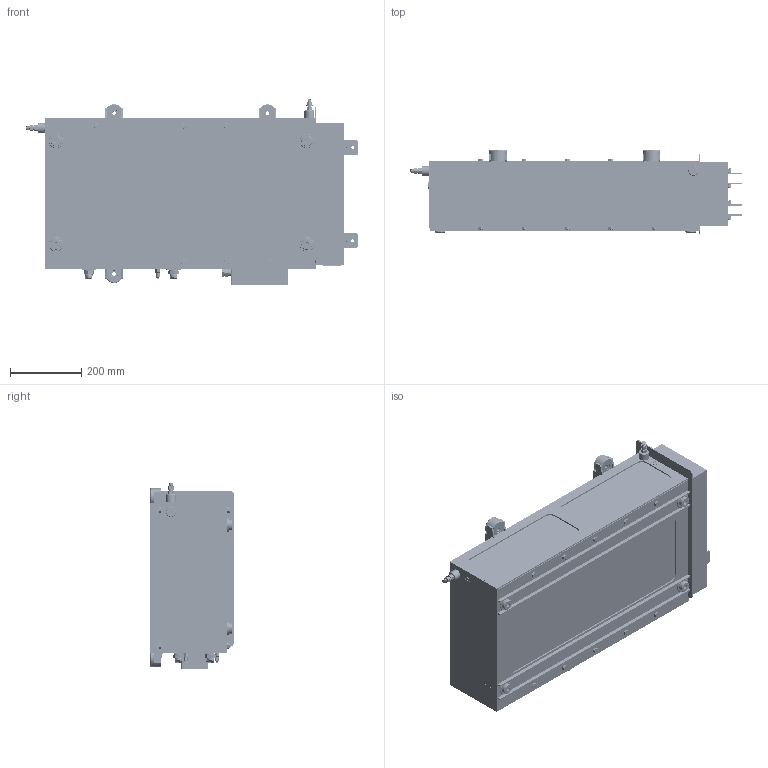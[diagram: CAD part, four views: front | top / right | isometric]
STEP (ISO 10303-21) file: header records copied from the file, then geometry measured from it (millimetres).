
FILE_DESCRIPTION (( 'STEP AP203' ), '1' );
FILE_NAME ('倳昃2-B IP21.STEP', '2024-04-04T19:30:02', ( '' ), ( '' ), 'SwSTEP 2.0', 'SolidWorks 2020', '' );
FILE_SCHEMA (( 'CONFIG_CONTROL_DESIGN' ));
Products named in the file (1): 倳昃2-B IP21
Bounding box: 928.91 x 233.48 x 522.87 mm (x, y, z)
Volume: 61570600.3 mm3; surface area: 3759731.7 mm2
Topology: 154 solids, 228 shells, 9194 faces, 22892 edges, 14573 vertices
Faces by surface type: cylinder 4208, plane 3456, torus 590, cone 490, bspline 410, sphere 40
Entity records: 463126 total; most frequent: CARTESIAN_POINT 256380, ORIENTED_EDGE 45480, DIRECTION 41193, EDGE_CURVE 22740, AXIS2_PLACEMENT_3D 15192, VERTEX_POINT 14573, VECTOR 10809, LINE 10809
